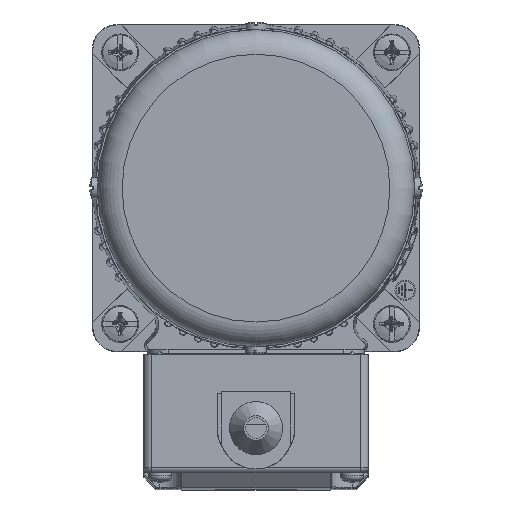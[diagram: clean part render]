
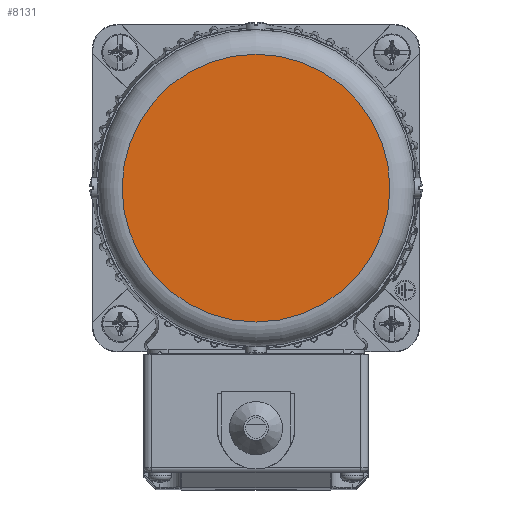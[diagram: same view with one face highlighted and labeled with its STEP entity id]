
A CAD part, left-side view. The second image highlights one B-rep face of the part: STEP entity #8131.
In plain terms, the highlighted planar face has unit normal (-1, 0, 0).
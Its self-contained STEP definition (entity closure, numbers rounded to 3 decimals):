
#2789=PLANE('',#27594);
#3890=FACE_OUTER_BOUND('',#10385,.T.);
#8131=ADVANCED_FACE('',(#3890),#2789,.F.);
#10385=EDGE_LOOP('',(#16374));
#16374=ORIENTED_EDGE('',*,*,#23519,.F.);
#20147=VERTEX_POINT('',#43808);
#23519=EDGE_CURVE('',#20147,#20147,#25579,.T.);
#25579=CIRCLE('',#27519,32.75);
#27519=AXIS2_PLACEMENT_3D('',#43807,#32606,#32607);
#27594=AXIS2_PLACEMENT_3D('',#48954,#32756,#32757);
#32606=DIRECTION('',(1.,0.,0.));
#32607=DIRECTION('',(0.,0.,-1.));
#32756=DIRECTION('',(1.,0.,0.));
#32757=DIRECTION('',(0.,0.,-1.));
#43807=CARTESIAN_POINT('',(-127.5,40.,40.));
#43808=CARTESIAN_POINT('',(-127.5,40.,7.25));
#48954=CARTESIAN_POINT('',(-127.5,40.,40.));
